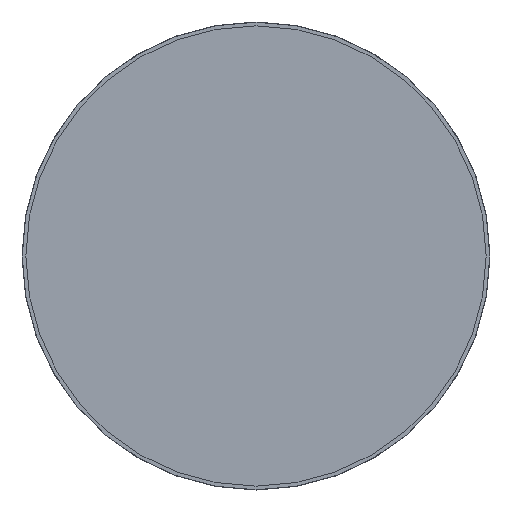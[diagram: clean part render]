
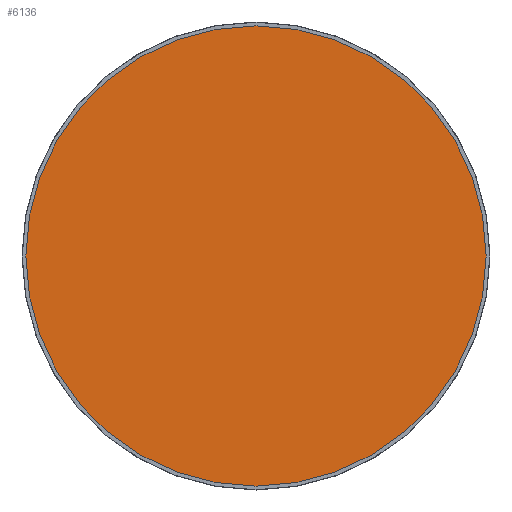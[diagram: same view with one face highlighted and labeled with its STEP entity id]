
A CAD part, front view. The second image highlights one B-rep face of the part: STEP entity #6136.
In plain terms, the highlighted planar face has unit normal (0, -1, 0).
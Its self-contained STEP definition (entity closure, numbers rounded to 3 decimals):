
#463=PLANE('',#6717);
#2158=FACE_OUTER_BOUND('',#2553,.T.);
#2553=EDGE_LOOP('',(#5759));
#2720=CIRCLE('',#6716,187.);
#3260=VERTEX_POINT('',#11553);
#4094=EDGE_CURVE('',#3260,#3260,#2720,.T.);
#5759=ORIENTED_EDGE('',*,*,#4094,.F.);
#6136=ADVANCED_FACE('',(#2158),#463,.T.);
#6716=AXIS2_PLACEMENT_3D('',#11555,#8404,#8405);
#6717=AXIS2_PLACEMENT_3D('',#11556,#8406,#8407);
#8404=DIRECTION('center_axis',(0.,1.,0.));
#8405=DIRECTION('ref_axis',(1.,0.,0.));
#8406=DIRECTION('center_axis',(0.,-1.,0.));
#8407=DIRECTION('ref_axis',(1.,0.,0.));
#11553=CARTESIAN_POINT('',(-187.,5.,0.));
#11555=CARTESIAN_POINT('Origin',(0.,5.,0.));
#11556=CARTESIAN_POINT('Origin',(0.,5.,0.));
